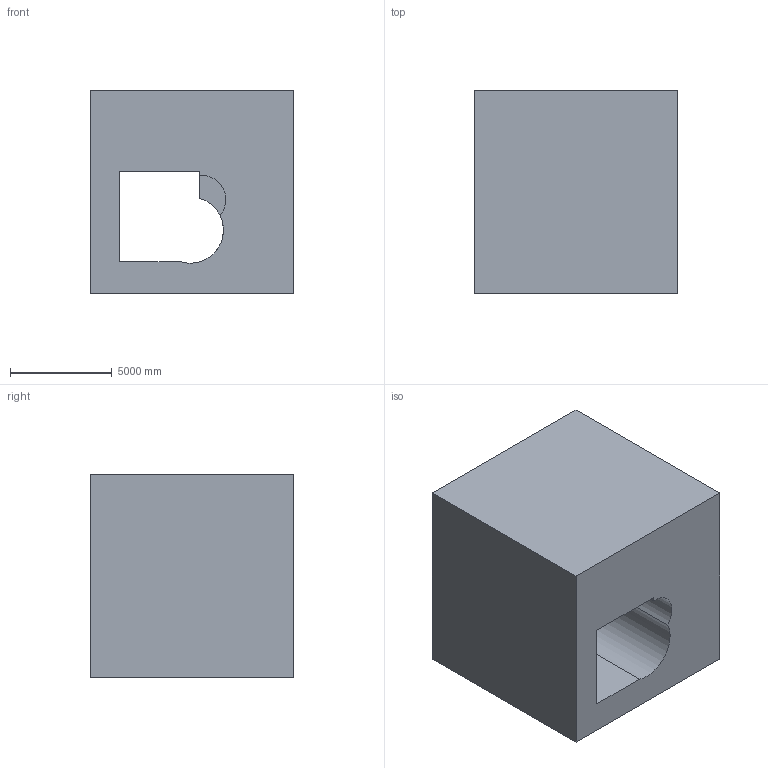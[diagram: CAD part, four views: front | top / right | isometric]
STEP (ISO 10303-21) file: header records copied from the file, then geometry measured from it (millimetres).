
FILE_DESCRIPTION (( 'STEP AP203' ), '1' );
FILE_NAME ('231.STEP', '2022-07-28T13:59:03', ( 'user' ), ( '' ), 'SwSTEP 2.0', 'SolidWorks 2021', '' );
FILE_SCHEMA (( 'CONFIG_CONTROL_DESIGN' ));
Length unit declared in the file: centimetre
Products named in the file (1): 231
Bounding box: 10000 x 10000 x 10000 mm (x, y, z)
Volume: 786356510584.5 mm3; surface area: 740334913 mm2
Topology: 1 solids, 1 shells, 13 faces, 33 edges, 22 vertices
Faces by surface type: plane 11, cylinder 2
Entity records: 473 total; most frequent: CARTESIAN_POINT 69, ORIENTED_EDGE 66, DIRECTION 66, EDGE_CURVE 33, VECTOR 28, LINE 28, VERTEX_POINT 22, AXIS2_PLACEMENT_3D 19
